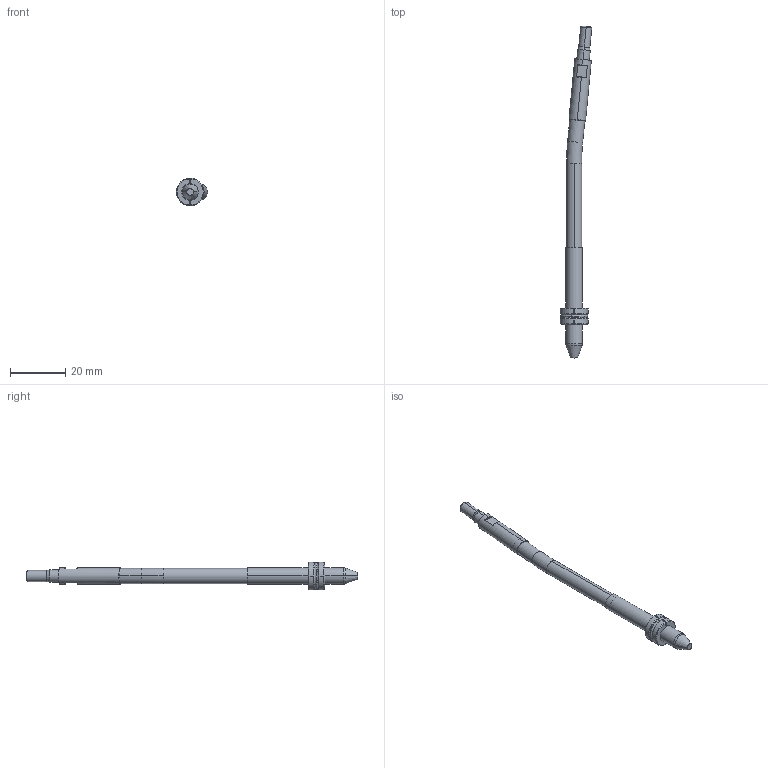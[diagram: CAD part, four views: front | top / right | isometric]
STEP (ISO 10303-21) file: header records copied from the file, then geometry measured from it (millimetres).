
FILE_DESCRIPTION (( 'STEP AP214' ), '1' );
FILE_NAME ('WP060030-INJ 5,5°.STEP', '2021-03-19T15:11:37', ( '' ), ( '' ), 'SwSTEP 2.0', 'SolidWorks 2019', '' );
FILE_SCHEMA (( 'AUTOMOTIVE_DESIGN' ));
Length unit declared in the file: millimetre
Products named in the file (6): WEB-006-9WP060030-6; WEB-002-9WP060030-2; WEB-008-JUNTA-JT7X1X9; WP060030-INJ 5,5°; WEB-007-9WP060030-F_WP060030-F-OFF 5,5ø; WEB-001-9WP060030-1
Assembly tree (5 placements, depth 2):
  WP060030-INJ 5,5°
    WEB-001-9WP060030-1
    WEB-007-9WP060030-F_WP060030-F-OFF 5,5ø
    WEB-002-9WP060030-2
    WEB-006-9WP060030-6
    WEB-008-JUNTA-JT7X1X9
Bounding box: 11.34 x 119.75 x 9.99 mm (x, y, z)
Volume: 3174 mm3; surface area: 2920.6 mm2
Topology: 6 solids, 6 shells, 112 faces, 262 edges, 164 vertices
Faces by surface type: cylinder 36, cone 28, plane 28, torus 20
Entity records: 3723 total; most frequent: CARTESIAN_POINT 714, DIRECTION 598, ORIENTED_EDGE 524, EDGE_CURVE 262, AXIS2_PLACEMENT_3D 256, VERTEX_POINT 164, CIRCLE 136, EDGE_LOOP 116
